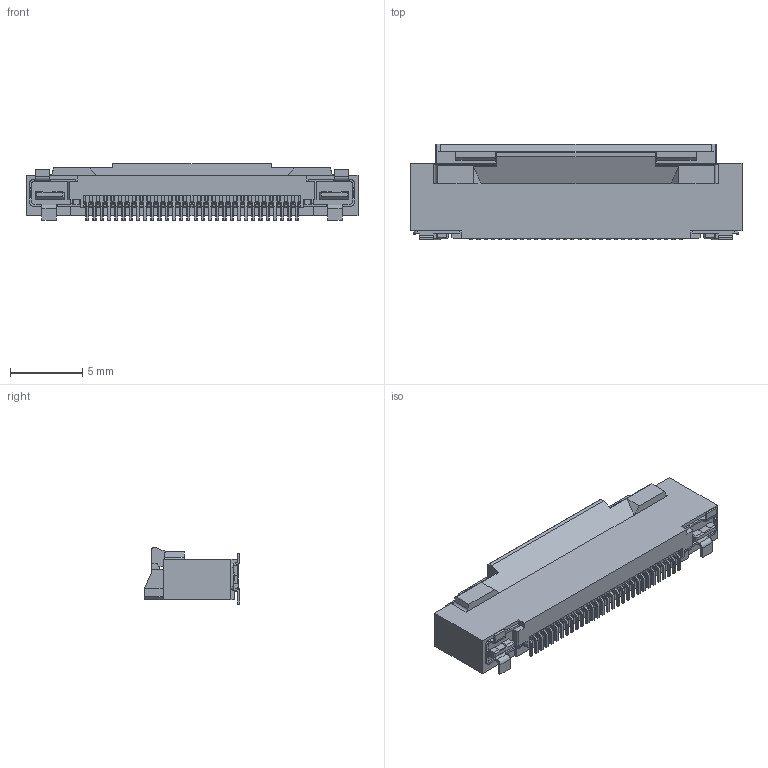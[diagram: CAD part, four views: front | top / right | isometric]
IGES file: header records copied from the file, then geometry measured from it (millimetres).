
Start section: SolidWorks IGES file using analytic representation for surfaces
Global section: file name: C:\Users\ieng2-006\Desktop\WORKING\nakamura\GVT 3D儌僨儖嶌惉\GVT IGES\20799-030E-01 IGES R6 ALL.IGS; native system: SolidWorks 2017; preprocessor: SolidWorks 2017; author: ieng2-006; date: 190328.163455; units: millimetre
Bounding box: 23 x 6.6 x 3.9 mm (x, y, z)
Surface area: 549.5 mm2 (no closed solid volume)
Topology: 0 solids, 0 shells, 939 faces, 5759 edges, 5759 vertices
Faces by surface type: bspline 784, revolution 155
